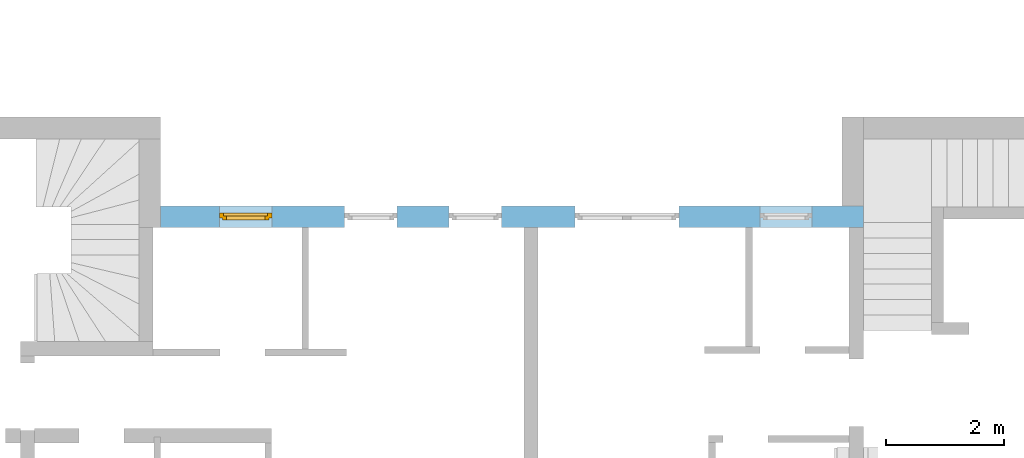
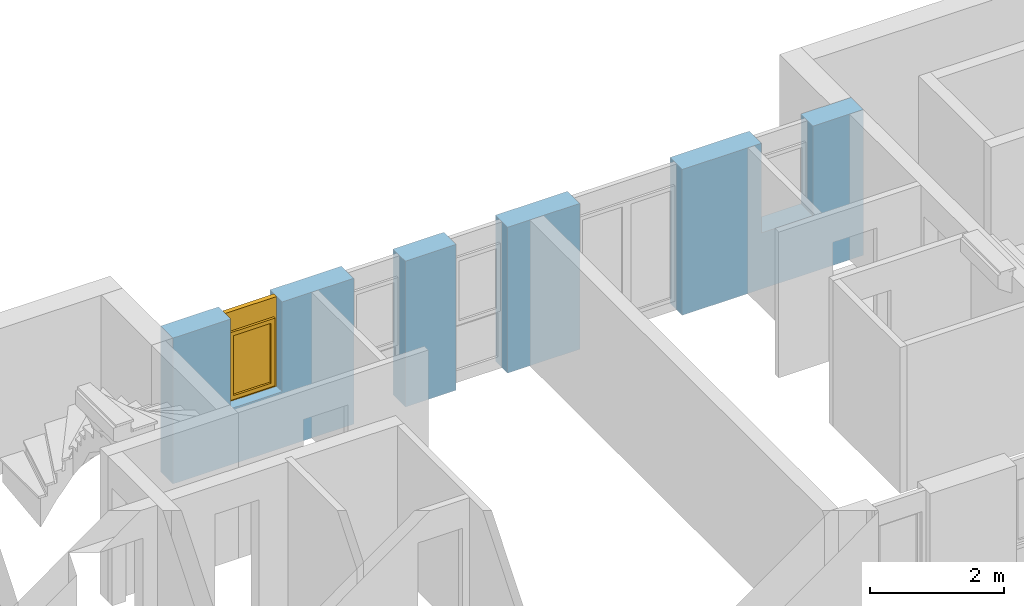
# One storey, part 35 of 42: 1 window, 5 openings, plus 1 element that does not belong to this part.
"""IFC2X3 building model written with IfcOpenShell, lengths in millimetres."""

from ifc_helpers import new_model, entity, si_unit, converted_unit, frame, frame_2d, origin, origin_with_axes, place, context, subcontext, project, spatial, rectangle, extrude, faceted_brep, material, layer, layer_set, layer_usage, type_object, element, fill, save


model = new_model("IFC2X3")

# Units and contexts
model_context = context("Model", 3, precision=1e-05, world=origin())
body_context = subcontext(model_context, "Body", "Model", "MODEL_VIEW")
ifc_project = project(units=[si_unit("LENGTHUNIT", "METRE", prefix="MILLI"), converted_unit("PLANEANGLEUNIT", "DEGREE", entity("IfcPlaneAngleMeasure", 0.0174532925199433), si_unit("PLANEANGLEUNIT", "RADIAN"), dimensions=[0, 0, 0, 0, 0, 0, 0]), si_unit("AREAUNIT", "SQUARE_METRE"), si_unit("VOLUMEUNIT", "CUBIC_METRE")], contexts=[model_context])

# Building, storey
building_placement = place(None, origin())
building = spatial("IfcBuilding", under=ifc_project, at=building_placement, Name="Gebäude", CompositionType="ELEMENT")
storey_placement = place(building_placement, frame((0.0, 0.0, 2730.0), z_axis=(0.0, 0.0, 1.0), x_axis=(1.0, 0.0, 0.0)))
storey = spatial("IfcBuildingStorey", under=building, at=storey_placement, Name="OG.- Grundriss", CompositionType="ELEMENT", Elevation=2730.0)

# Wall, openings, window
ifc_material_1 = material(Name="Poroton")
ifc_layer = layer(ifc_material_1, 365.0000000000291)
ifc_layer_set = layer_set([ifc_layer])
ifc_layer_usage = layer_usage(ifc_layer_set, "AXIS2", "POSITIVE", 0.0)
wall_placement = place(storey_placement, frame((176237.7928067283, 134774.8877324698, 0.0), z_axis=(0.0, 0.0, 1.0), x_axis=(-1.0, 0.0, 0.0)))
wall = element("IfcWallStandardCase", 1, at=wall_placement, inside=storey, material=ifc_layer_usage, Name="<Unnamed Element>", context=body_context, shape_type="SweptSolid", body=[
    extrude(rectangle(XDim=11869.99999999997, YDim=365.0000000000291, at=frame_2d((5934.999999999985, 182.5000000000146), x_axis=(1.0, 0.0))), origin_with_axes(), (0.0, 0.0, 1.0), 2650.0),
])
opening_1_placement = place(wall_placement, frame((7875.000000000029, 0.0, 0.0), z_axis=(0.0, 1.0, 0.0), x_axis=(0.0, 0.0, 1.0)))
element("IfcOpeningElement", 2, at=opening_1_placement, cuts=wall, Name="Fensteröffnung", ObjectType="Opening", context=body_context, shape_type="SweptSolid", body=[
    extrude(rectangle(XDim=2650.0, YDim=885.0, at=frame_2d((1325.0, 442.5), x_axis=(1.0, 0.0))), origin_with_axes(), (0.0, 0.0, 1.0), 365.0000000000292),
])
opening_2_placement = place(wall_placement, frame((6115.000000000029, 0.0, 0.0), z_axis=(0.0, 1.0, 0.0), x_axis=(0.0, 0.0, 1.0)))
element("IfcOpeningElement", 3, at=opening_2_placement, cuts=wall, Name="Fensteröffnung", ObjectType="Opening", context=body_context, shape_type="SweptSolid", body=[
    extrude(rectangle(XDim=2650.0, YDim=885.0, at=frame_2d((1325.0, 442.5), x_axis=(1.0, 0.0))), origin_with_axes(), (0.0, 0.0, 1.0), 365.0000000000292),
])
opening_3_placement = place(wall_placement, frame((9990.00000000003, 0.0, 1020.0), z_axis=(0.0, 1.0, 0.0), x_axis=(0.0, 0.0, 1.0)))
opening_3 = element("IfcOpeningElement", 4, at=opening_3_placement, cuts=wall, Name="Fensteröffnung", ObjectType="Opening", context=body_context, shape_type="SweptSolid", body=[
    extrude(rectangle(XDim=1630.0, YDim=885.0, at=frame_2d((815.0, 442.5), x_axis=(1.0, 0.0))), origin_with_axes(), (0.0, 0.0, 1.0), 365.0000000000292),
])
opening_4_placement = place(wall_placement, frame((3115.000000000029, 0.0, 0.0), z_axis=(0.0, 1.0, 0.0), x_axis=(0.0, 0.0, 1.0)))
element("IfcOpeningElement", 5, at=opening_4_placement, cuts=wall, Name="Fensteröffnung", ObjectType="Opening", context=body_context, shape_type="SweptSolid", body=[
    extrude(rectangle(XDim=2650.0, YDim=1760.0, at=frame_2d((1325.0, 880.0), x_axis=(1.0, 0.0))), origin_with_axes(), (0.0, 0.0, 1.0), 365.0000000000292),
])
opening_5_placement = place(wall_placement, frame((865.0000000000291, 0.0, 1020.0), z_axis=(0.0, 1.0, 0.0), x_axis=(0.0, 0.0, 1.0)))
element("IfcOpeningElement", 6, at=opening_5_placement, cuts=wall, Name="Fensteröffnung", ObjectType="Opening", context=body_context, shape_type="SweptSolid", body=[
    extrude(rectangle(XDim=1630.0, YDim=885.0, at=frame_2d((815.0, 442.5), x_axis=(1.0, 0.0))), origin_with_axes(), (0.0, 0.0, 1.0), 365.0000000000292),
])
ifc_material_2 = material()
window_style = type_object("IfcWindowStyle", Name="Fenster", ConstructionType="NOTDEFINED", OperationType="USERDEFINED", ParameterTakesPrecedence=False, Sizeable=False)
window_placement = place(opening_3_placement, frame((0.0, 0.0, 0.0), z_axis=(1.0, 0.0, 0.0), x_axis=(0.0, 1.0, 0.0)))
window = element("IfcWindow", 7, at=window_placement, inside=storey, type_object=window_style, material=ifc_material_2, Name="Fenster", OverallHeight=1630.0, OverallWidth=885.0, context=body_context, shape_type="Brep", body=[
    faceted_brep([(9.797174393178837e-15, 200.000000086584, 1630.0), (9.797174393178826e-15, 200.0000000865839, -2.449293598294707e-15), (70.00000000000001, 200.0000000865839, -2.449293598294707e-15), (70.00000000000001, 200.000000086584, 1630.0), (0.0, 120.0000000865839, 2.449293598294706e-15), (1.218229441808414e-29, 120.000000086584, 1630.0), (70.0, 120.000000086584, 1630.0), (70.0, 120.0000000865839, 2.449293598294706e-15), (9.797174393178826e-15, 200.0000000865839, -2.449293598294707e-15), (9.797174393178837e-15, 200.000000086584, 1630.0), (1.218229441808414e-29, 120.000000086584, 1630.0), (0.0, 120.0000000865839, 2.449293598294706e-15), (70.00000000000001, 200.0000000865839, -2.449293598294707e-15), (9.797174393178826e-15, 200.0000000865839, -2.449293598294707e-15), (0.0, 120.0000000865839, 2.449293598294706e-15), (70.0, 120.0000000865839, 2.449293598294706e-15), (70.00000000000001, 200.000000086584, 1630.0), (70.00000000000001, 200.0000000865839, -2.449293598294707e-15), (70.0, 120.0000000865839, 2.449293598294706e-15), (70.0, 120.000000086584, 1630.0), (9.797174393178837e-15, 200.000000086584, 1630.0), (70.00000000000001, 200.000000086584, 1630.0), (70.0, 120.000000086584, 1630.0), (1.218229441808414e-29, 120.000000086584, 1630.0)], [[[0, 1, 2, 3]], [[4, 5, 6, 7]], [[8, 9, 10, 11]], [[12, 13, 14, 15]], [[16, 17, 18, 19]], [[20, 21, 22, 23]]], orient=[[False], [False], [False], [False], [False], [False]]),
    faceted_brep([(815.0000000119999, 200.0000000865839, 1630.0), (815.0000000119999, 200.0000000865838, -2.449293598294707e-15), (885.0000000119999, 200.0000000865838, -2.449293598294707e-15), (885.0000000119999, 200.0000000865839, 1630.0), (815.0000000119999, 120.0000000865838, 2.449293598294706e-15), (815.0000000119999, 120.0000000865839, 1630.0), (885.0000000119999, 120.0000000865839, 1630.0), (885.0000000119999, 120.0000000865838, 2.449293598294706e-15), (815.0000000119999, 200.0000000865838, -2.449293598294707e-15), (815.0000000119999, 200.0000000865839, 1630.0), (815.0000000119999, 120.0000000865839, 1630.0), (815.0000000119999, 120.0000000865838, 2.449293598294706e-15), (885.0000000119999, 200.0000000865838, -2.449293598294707e-15), (815.0000000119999, 200.0000000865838, -2.449293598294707e-15), (815.0000000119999, 120.0000000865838, 2.449293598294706e-15), (885.0000000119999, 120.0000000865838, 2.449293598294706e-15), (885.0000000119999, 200.0000000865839, 1630.0), (885.0000000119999, 200.0000000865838, -2.449293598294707e-15), (885.0000000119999, 120.0000000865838, 2.449293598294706e-15), (885.0000000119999, 120.0000000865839, 1630.0), (815.0000000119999, 200.0000000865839, 1630.0), (885.0000000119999, 200.0000000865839, 1630.0), (885.0000000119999, 120.0000000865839, 1630.0), (815.0000000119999, 120.0000000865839, 1630.0)], [[[0, 1, 2, 3]], [[4, 5, 6, 7]], [[8, 9, 10, 11]], [[12, 13, 14, 15]], [[16, 17, 18, 19]], [[20, 21, 22, 23]]], orient=[[False], [False], [False], [False], [False], [False]]),
    faceted_brep([(70.00000000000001, 200.0000000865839, 69.99999999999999), (70.00000000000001, 200.0000000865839, -2.449293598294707e-15), (815.0000000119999, 200.0000000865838, -2.449293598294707e-15), (815.0000000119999, 200.0000000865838, 69.99999999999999), (70.0, 120.0000000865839, 2.449293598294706e-15), (70.0, 120.0000000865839, 69.99999999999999), (815.0000000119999, 120.0000000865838, 69.99999999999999), (815.0000000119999, 120.0000000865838, 2.449293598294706e-15), (70.00000000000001, 200.0000000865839, -2.449293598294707e-15), (70.00000000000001, 200.0000000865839, 69.99999999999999), (70.0, 120.0000000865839, 69.99999999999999), (70.0, 120.0000000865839, 2.449293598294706e-15), (815.0000000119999, 200.0000000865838, -2.449293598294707e-15), (70.00000000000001, 200.0000000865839, -2.449293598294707e-15), (70.0, 120.0000000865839, 2.449293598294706e-15), (815.0000000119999, 120.0000000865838, 2.449293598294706e-15), (815.0000000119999, 200.0000000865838, 69.99999999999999), (815.0000000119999, 200.0000000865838, -2.449293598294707e-15), (815.0000000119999, 120.0000000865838, 2.449293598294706e-15), (815.0000000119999, 120.0000000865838, 69.99999999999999), (70.00000000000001, 200.0000000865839, 69.99999999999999), (815.0000000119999, 200.0000000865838, 69.99999999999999), (815.0000000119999, 120.0000000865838, 69.99999999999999), (70.0, 120.0000000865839, 69.99999999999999)], [[[0, 1, 2, 3]], [[4, 5, 6, 7]], [[8, 9, 10, 11]], [[12, 13, 14, 15]], [[16, 17, 18, 19]], [[20, 21, 22, 23]]], orient=[[False], [False], [False], [False], [False], [False]]),
    faceted_brep([(70.00000000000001, 200.000000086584, 1630.0), (70.00000000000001, 200.000000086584, 1260.0), (815.0000000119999, 200.0000000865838, 1260.0), (815.0000000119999, 200.0000000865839, 1630.0), (70.0, 120.000000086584, 1260.0), (70.0, 120.000000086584, 1630.0), (815.0000000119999, 120.0000000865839, 1630.0), (815.0000000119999, 120.0000000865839, 1260.0), (70.00000000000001, 200.000000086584, 1260.0), (70.00000000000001, 200.000000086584, 1630.0), (70.0, 120.000000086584, 1630.0), (70.0, 120.000000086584, 1260.0), (815.0000000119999, 200.0000000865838, 1260.0), (70.00000000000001, 200.000000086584, 1260.0), (70.0, 120.000000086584, 1260.0), (815.0000000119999, 120.0000000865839, 1260.0), (815.0000000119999, 200.0000000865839, 1630.0), (815.0000000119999, 200.0000000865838, 1260.0), (815.0000000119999, 120.0000000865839, 1260.0), (815.0000000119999, 120.0000000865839, 1630.0), (70.00000000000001, 200.000000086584, 1630.0), (815.0000000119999, 200.0000000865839, 1630.0), (815.0000000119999, 120.0000000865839, 1630.0), (70.0, 120.000000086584, 1630.0)], [[[0, 1, 2, 3]], [[4, 5, 6, 7]], [[8, 9, 10, 11]], [[12, 13, 14, 15]], [[16, 17, 18, 19]], [[20, 21, 22, 23]]], orient=[[False], [False], [False], [False], [False], [False]]),
    faceted_brep([(50.00000000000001, 240.000000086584, 1280.0), (50.00000000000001, 240.0000000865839, 49.99999999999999), (120.0, 240.0000000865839, 49.99999999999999), (120.0, 240.000000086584, 1280.0), (50.00000000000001, 170.0000000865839, 50.0), (50.00000000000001, 170.000000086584, 1280.0), (120.0, 170.000000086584, 1280.0), (120.0, 170.0000000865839, 50.0), (50.00000000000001, 240.0000000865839, 49.99999999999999), (50.00000000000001, 240.000000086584, 1280.0), (50.00000000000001, 170.000000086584, 1280.0), (50.00000000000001, 170.0000000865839, 50.0), (120.0, 240.0000000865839, 49.99999999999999), (50.00000000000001, 240.0000000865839, 49.99999999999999), (50.00000000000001, 170.0000000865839, 50.0), (120.0, 170.0000000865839, 50.0), (120.0, 240.000000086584, 1280.0), (120.0, 240.0000000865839, 49.99999999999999), (120.0, 170.0000000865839, 50.0), (120.0, 170.000000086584, 1280.0), (50.00000000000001, 240.000000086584, 1280.0), (120.0, 240.000000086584, 1280.0), (120.0, 170.000000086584, 1280.0), (50.00000000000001, 170.000000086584, 1280.0)], [[[0, 1, 2, 3]], [[4, 5, 6, 7]], [[8, 9, 10, 11]], [[12, 13, 14, 15]], [[16, 17, 18, 19]], [[20, 21, 22, 23]]], orient=[[False], [False], [False], [False], [False], [False]]),
    faceted_brep([(765.0000000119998, 240.0000000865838, 1280.0), (765.0000000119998, 240.0000000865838, 49.99999999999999), (835.0000000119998, 240.0000000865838, 49.99999999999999), (835.0000000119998, 240.0000000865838, 1280.0), (765.0000000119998, 170.0000000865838, 50.0), (765.0000000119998, 170.0000000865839, 1280.0), (835.0000000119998, 170.0000000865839, 1280.0), (835.0000000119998, 170.0000000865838, 50.0), (765.0000000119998, 240.0000000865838, 49.99999999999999), (765.0000000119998, 240.0000000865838, 1280.0), (765.0000000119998, 170.0000000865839, 1280.0), (765.0000000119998, 170.0000000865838, 50.0), (835.0000000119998, 240.0000000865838, 49.99999999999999), (765.0000000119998, 240.0000000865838, 49.99999999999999), (765.0000000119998, 170.0000000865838, 50.0), (835.0000000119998, 170.0000000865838, 50.0), (835.0000000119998, 240.0000000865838, 1280.0), (835.0000000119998, 240.0000000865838, 49.99999999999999), (835.0000000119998, 170.0000000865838, 50.0), (835.0000000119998, 170.0000000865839, 1280.0), (765.0000000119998, 240.0000000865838, 1280.0), (835.0000000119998, 240.0000000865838, 1280.0), (835.0000000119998, 170.0000000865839, 1280.0), (765.0000000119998, 170.0000000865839, 1280.0)], [[[0, 1, 2, 3]], [[4, 5, 6, 7]], [[8, 9, 10, 11]], [[12, 13, 14, 15]], [[16, 17, 18, 19]], [[20, 21, 22, 23]]], orient=[[False], [False], [False], [False], [False], [False]]),
    faceted_brep([(120.0, 240.0000000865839, 120.0), (120.0, 240.0000000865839, 49.99999999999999), (765.0000000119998, 240.0000000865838, 49.99999999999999), (765.0000000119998, 240.0000000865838, 120.0), (120.0, 170.0000000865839, 50.0), (120.0, 170.0000000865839, 120.0), (765.0000000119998, 170.0000000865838, 120.0), (765.0000000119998, 170.0000000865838, 50.0), (120.0, 240.0000000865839, 49.99999999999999), (120.0, 240.0000000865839, 120.0), (120.0, 170.0000000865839, 120.0), (120.0, 170.0000000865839, 50.0), (765.0000000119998, 240.0000000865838, 49.99999999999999), (120.0, 240.0000000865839, 49.99999999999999), (120.0, 170.0000000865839, 50.0), (765.0000000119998, 170.0000000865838, 50.0), (765.0000000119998, 240.0000000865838, 120.0), (765.0000000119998, 240.0000000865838, 49.99999999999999), (765.0000000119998, 170.0000000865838, 50.0), (765.0000000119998, 170.0000000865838, 120.0), (120.0, 240.0000000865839, 120.0), (765.0000000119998, 240.0000000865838, 120.0), (765.0000000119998, 170.0000000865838, 120.0), (120.0, 170.0000000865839, 120.0)], [[[0, 1, 2, 3]], [[4, 5, 6, 7]], [[8, 9, 10, 11]], [[12, 13, 14, 15]], [[16, 17, 18, 19]], [[20, 21, 22, 23]]], orient=[[False], [False], [False], [False], [False], [False]]),
    faceted_brep([(120.0, 240.000000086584, 1280.0), (120.0, 240.000000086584, 1210.0), (765.0000000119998, 240.0000000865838, 1210.0), (765.0000000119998, 240.0000000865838, 1280.0), (120.0, 170.000000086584, 1210.0), (120.0, 170.000000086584, 1280.0), (765.0000000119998, 170.0000000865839, 1280.0), (765.0000000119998, 170.0000000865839, 1210.0), (120.0, 240.000000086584, 1210.0), (120.0, 240.000000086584, 1280.0), (120.0, 170.000000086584, 1280.0), (120.0, 170.000000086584, 1210.0), (765.0000000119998, 240.0000000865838, 1210.0), (120.0, 240.000000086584, 1210.0), (120.0, 170.000000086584, 1210.0), (765.0000000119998, 170.0000000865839, 1210.0), (765.0000000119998, 240.0000000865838, 1280.0), (765.0000000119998, 240.0000000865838, 1210.0), (765.0000000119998, 170.0000000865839, 1210.0), (765.0000000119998, 170.0000000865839, 1280.0), (120.0, 240.000000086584, 1280.0), (765.0000000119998, 240.0000000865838, 1280.0), (765.0000000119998, 170.0000000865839, 1280.0), (120.0, 170.000000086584, 1280.0)], [[[0, 1, 2, 3]], [[4, 5, 6, 7]], [[8, 9, 10, 11]], [[12, 13, 14, 15]], [[16, 17, 18, 19]], [[20, 21, 22, 23]]], orient=[[False], [False], [False], [False], [False], [False]]),
    faceted_brep([(120.0, 205.0000000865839, 120.0), (765.0000000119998, 205.0000000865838, 120.0), (765.0000000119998, 205.0000000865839, 1210.0), (120.0, 205.000000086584, 1210.0), (120.0, 204.0000000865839, 120.0), (120.0, 204.000000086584, 1210.0), (765.0000000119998, 204.0000000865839, 1210.0), (765.0000000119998, 204.0000000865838, 120.0), (120.0, 205.0000000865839, 120.0), (120.0, 204.0000000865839, 120.0), (765.0000000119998, 204.0000000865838, 120.0), (765.0000000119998, 205.0000000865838, 120.0), (765.0000000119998, 205.0000000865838, 120.0), (765.0000000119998, 204.0000000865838, 120.0), (765.0000000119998, 204.0000000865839, 1210.0), (765.0000000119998, 205.0000000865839, 1210.0), (765.0000000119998, 205.0000000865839, 1210.0), (765.0000000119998, 204.0000000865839, 1210.0), (120.0, 204.000000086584, 1210.0), (120.0, 205.000000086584, 1210.0), (120.0, 205.000000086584, 1210.0), (120.0, 204.000000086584, 1210.0), (120.0, 204.0000000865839, 120.0), (120.0, 205.0000000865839, 120.0)], [[[0, 1, 2, 3]], [[4, 5, 6, 7]], [[8, 9, 10, 11]], [[12, 13, 14, 15]], [[16, 17, 18, 19]], [[20, 21, 22, 23]]], orient=[[False], [False], [False], [False], [False], [False]]),
])
fill(opening_3, window)

save(model, "model.ifc")
